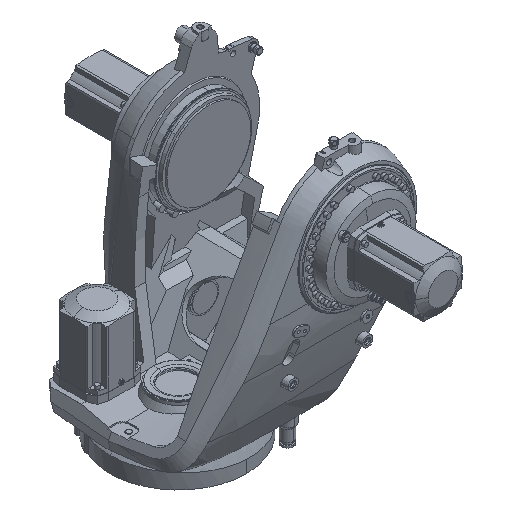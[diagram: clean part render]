
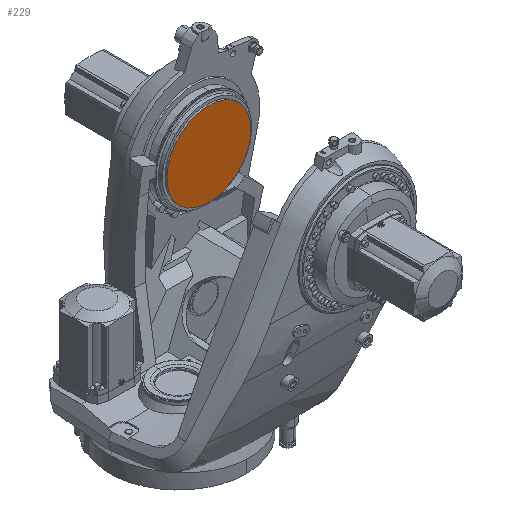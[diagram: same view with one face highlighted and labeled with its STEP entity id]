
A CAD part, isometric view. The second image highlights one B-rep face of the part: STEP entity #229.
In plain terms, the highlighted planar face has unit normal (0, -1, 0).
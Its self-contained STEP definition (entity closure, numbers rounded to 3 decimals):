
#229 = ADVANCED_FACE ( 'NONE', ( #110233 ), #26515, .F. ) ;
#10925 = CIRCLE ( 'NONE', #79251, 157.5 ) ;
#11072 = ORIENTED_EDGE ( 'NONE', *, *, #100511, .T. ) ;
#17413 = CARTESIAN_POINT ( 'NONE',  ( 292.65, 205., 774.893 ) ) ;
#19123 = DIRECTION ( 'NONE',  ( -0.174, 0., -0.985 ) ) ;
#21550 = EDGE_LOOP ( 'NONE', ( #11072, #75948 ) ) ;
#22421 = VERTEX_POINT ( 'NONE', #17413 ) ;
#26515 = PLANE ( 'NONE',  #82022 ) ;
#27103 = CARTESIAN_POINT ( 'NONE',  ( 335.729, 205., 1019.201 ) ) ;
#34123 = DIRECTION ( 'NONE',  ( 0., -1., 0. ) ) ;
#38164 = CIRCLE ( 'NONE', #90894, 157.5 ) ;
#41812 = VERTEX_POINT ( 'NONE', #46124 ) ;
#46124 = CARTESIAN_POINT ( 'NONE',  ( 347.35, 205., 1085.107 ) ) ;
#56067 = EDGE_CURVE ( 'NONE', #41812, #22421, #10925, .T. ) ;
#58023 = CARTESIAN_POINT ( 'NONE',  ( 320., 205., 930. ) ) ;
#71992 = DIRECTION ( 'NONE',  ( 0.174, 0., 0.985 ) ) ;
#75948 = ORIENTED_EDGE ( 'NONE', *, *, #56067, .T. ) ;
#77561 = DIRECTION ( 'NONE',  ( 0.174, 0., 0.985 ) ) ;
#79251 = AXIS2_PLACEMENT_3D ( 'NONE', #58023, #87359, #77561 ) ;
#82022 = AXIS2_PLACEMENT_3D ( 'NONE', #27103, #100452, #19123 ) ;
#87359 = DIRECTION ( 'NONE',  ( 0., -1., 0. ) ) ;
#90894 = AXIS2_PLACEMENT_3D ( 'NONE', #117849, #34123, #71992 ) ;
#100452 = DIRECTION ( 'NONE',  ( 0., 1., 0. ) ) ;
#100511 = EDGE_CURVE ( 'NONE', #22421, #41812, #38164, .T. ) ;
#110233 = FACE_OUTER_BOUND ( 'NONE', #21550, .T. ) ;
#117849 = CARTESIAN_POINT ( 'NONE',  ( 320., 205., 930. ) ) ;
